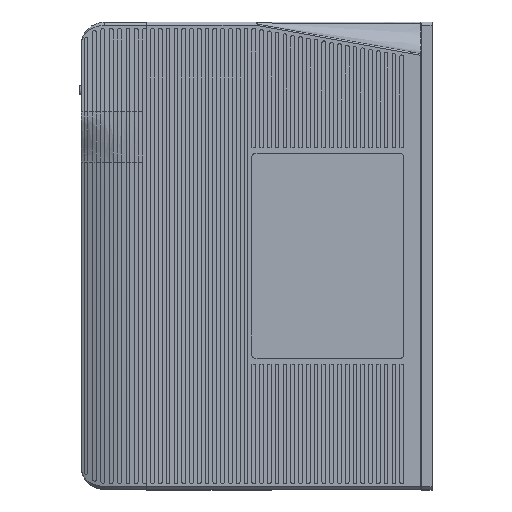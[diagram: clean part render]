
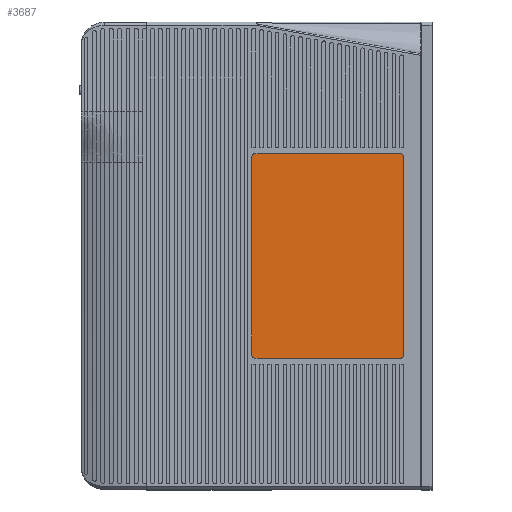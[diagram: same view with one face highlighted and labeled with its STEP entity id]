
A CAD part, top view. The second image highlights one B-rep face of the part: STEP entity #3687.
In plain terms, the highlighted planar face has unit normal (0, 0, 1).
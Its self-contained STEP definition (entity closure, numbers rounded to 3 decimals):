
#2703=CIRCLE('',#38284,1.);
#2704=CIRCLE('',#38285,1.);
#2705=CIRCLE('',#38286,1.);
#2706=CIRCLE('',#38287,1.);
#3687=ADVANCED_FACE('',(#6623),#5403,.F.);
#5403=PLANE('',#38288);
#6623=FACE_OUTER_BOUND('',#8692,.T.);
#8692=EDGE_LOOP('',(#14131,#14132,#14133,#14134,#14135,#14136,#14137,#14138));
#14131=ORIENTED_EDGE('',*,*,#27006,.T.);
#14132=ORIENTED_EDGE('',*,*,#27007,.T.);
#14133=ORIENTED_EDGE('',*,*,#27008,.T.);
#14134=ORIENTED_EDGE('',*,*,#27009,.T.);
#14135=ORIENTED_EDGE('',*,*,#27010,.F.);
#14136=ORIENTED_EDGE('',*,*,#27011,.T.);
#14137=ORIENTED_EDGE('',*,*,#27012,.T.);
#14138=ORIENTED_EDGE('',*,*,#27013,.T.);
#23095=VERTEX_POINT('',#54602);
#23096=VERTEX_POINT('',#54603);
#23097=VERTEX_POINT('',#54605);
#23098=VERTEX_POINT('',#54607);
#23099=VERTEX_POINT('',#54609);
#23100=VERTEX_POINT('',#54611);
#23101=VERTEX_POINT('',#54613);
#23102=VERTEX_POINT('',#54615);
#27006=EDGE_CURVE('',#23095,#23096,#31577,.T.);
#27007=EDGE_CURVE('',#23096,#23097,#2703,.T.);
#27008=EDGE_CURVE('',#23097,#23098,#31578,.T.);
#27009=EDGE_CURVE('',#23098,#23099,#2704,.T.);
#27010=EDGE_CURVE('',#23100,#23099,#31579,.T.);
#27011=EDGE_CURVE('',#23100,#23101,#2705,.T.);
#27012=EDGE_CURVE('',#23101,#23102,#31580,.T.);
#27013=EDGE_CURVE('',#23102,#23095,#2706,.T.);
#31577=LINE('',#54601,#34936);
#31578=LINE('',#54606,#34937);
#31579=LINE('',#54610,#34938);
#31580=LINE('',#54614,#34939);
#34936=VECTOR('',#43121,1.);
#34937=VECTOR('',#43124,1.);
#34938=VECTOR('',#43127,1.);
#34939=VECTOR('',#43130,1.);
#38284=AXIS2_PLACEMENT_3D('',#54604,#43122,#43123);
#38285=AXIS2_PLACEMENT_3D('',#54608,#43125,#43126);
#38286=AXIS2_PLACEMENT_3D('',#54612,#43128,#43129);
#38287=AXIS2_PLACEMENT_3D('',#54616,#43131,#43132);
#38288=AXIS2_PLACEMENT_3D('',#54617,#43133,#43134);
#43121=DIRECTION('',(0.,1.,0.));
#43122=DIRECTION('',(0.,0.,1.));
#43123=DIRECTION('',(-1.,0.,0.));
#43124=DIRECTION('',(-1.,0.,0.));
#43125=DIRECTION('',(0.,0.,1.));
#43126=DIRECTION('',(-1.,0.,0.));
#43127=DIRECTION('',(0.,1.,0.));
#43128=DIRECTION('',(0.,0.,1.));
#43129=DIRECTION('',(-1.,0.,0.));
#43130=DIRECTION('',(1.,0.,0.));
#43131=DIRECTION('',(0.,0.,1.));
#43132=DIRECTION('',(-1.,0.,0.));
#43133=DIRECTION('',(0.,0.,-1.));
#43134=DIRECTION('',(0.,-1.,0.));
#54601=CARTESIAN_POINT('',(84.722,148.,39.66));
#54602=CARTESIAN_POINT('',(84.722,41.5,39.66));
#54603=CARTESIAN_POINT('',(84.722,105.5,39.66));
#54604=CARTESIAN_POINT('',(83.722,105.5,39.66));
#54605=CARTESIAN_POINT('',(83.722,106.5,39.66));
#54606=CARTESIAN_POINT('',(90.44,106.5,39.66));
#54607=CARTESIAN_POINT('',(36.766,106.5,39.66));
#54608=CARTESIAN_POINT('',(36.766,105.5,39.66));
#54609=CARTESIAN_POINT('',(35.766,105.5,39.66));
#54610=CARTESIAN_POINT('',(35.766,148.,39.66));
#54611=CARTESIAN_POINT('',(35.766,41.5,39.66));
#54612=CARTESIAN_POINT('',(36.766,41.5,39.66));
#54613=CARTESIAN_POINT('',(36.766,40.5,39.66));
#54614=CARTESIAN_POINT('',(90.44,40.5,39.66));
#54615=CARTESIAN_POINT('',(83.722,40.5,39.66));
#54616=CARTESIAN_POINT('',(83.722,41.5,39.66));
#54617=CARTESIAN_POINT('',(36.366,148.,39.66));
